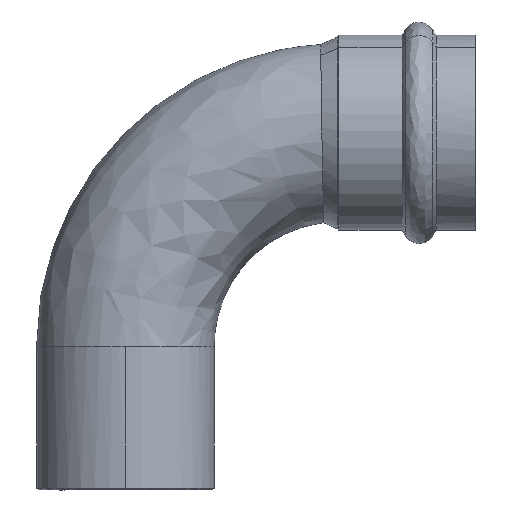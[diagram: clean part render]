
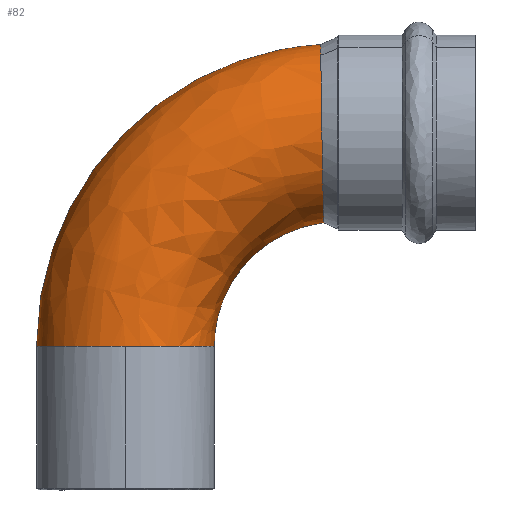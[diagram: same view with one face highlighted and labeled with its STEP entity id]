
A CAD part, front view. The second image highlights one B-rep face of the part: STEP entity #82.
In plain terms, the highlighted free-form (B-spline) face has degree [2, 2] with [7, 3] control points.
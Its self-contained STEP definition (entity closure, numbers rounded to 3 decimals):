
#82=ADVANCED_FACE('',(#166),#167,.T.);
#166=FACE_OUTER_BOUND('',#451,.T.);
#167=(B_SPLINE_SURFACE(2,2,((#453,#454,#455),(#456,#457,#458),(#459,#460,#461),(#462,#463,#464),(#465,#466,#467),(#468,#469,#470),(#471,#472,#473)),.UNSPECIFIED.,.F.,.F.,.F.)B_SPLINE_SURFACE_WITH_KNOTS((3,2,2,3),(3,3),(0.,1.047,2.094,3.142),(0.0,1.521),.UNSPECIFIED.)RATIONAL_B_SPLINE_SURFACE(((1.0,0.725,1.0),(0.866,0.627,0.866),(1.0,0.725,1.0),(0.866,0.627,0.866),(1.0,0.725,1.0),(0.866,0.627,0.866),(1.0,0.725,1.0)))BOUNDED_SURFACE()REPRESENTATION_ITEM('')GEOMETRIC_REPRESENTATION_ITEM()SURFACE());
#451=EDGE_LOOP('',(#769,#770,#771,#772,#773,#774));
#453=CARTESIAN_POINT('',(-25.375,0.001,-61.));
#454=CARTESIAN_POINT('',(-25.375,0.001,21.164));
#455=CARTESIAN_POINT('',(56.687,0.001,25.267));
#456=CARTESIAN_POINT('',(-25.375,-14.65,-61.));
#457=CARTESIAN_POINT('',(-25.375,-14.65,21.165));
#458=CARTESIAN_POINT('',(56.687,-14.65,25.268));
#459=CARTESIAN_POINT('',(-12.688,-21.975,-61.));
#460=CARTESIAN_POINT('',(-12.688,-21.975,9.096));
#461=CARTESIAN_POINT('',(57.32,-21.975,12.596));
#462=CARTESIAN_POINT('',(0.,-29.301,-61.));
#463=CARTESIAN_POINT('',(0.,-29.301,-2.974));
#464=CARTESIAN_POINT('',(57.954,-29.301,-0.076));
#465=CARTESIAN_POINT('',(12.688,-21.975,-61.));
#466=CARTESIAN_POINT('',(12.688,-21.975,-15.043));
#467=CARTESIAN_POINT('',(58.588,-21.975,-12.748));
#468=CARTESIAN_POINT('',(25.375,-14.65,-61.));
#469=CARTESIAN_POINT('',(25.375,-14.65,-27.112));
#470=CARTESIAN_POINT('',(59.221,-14.65,-25.42));
#471=CARTESIAN_POINT('',(25.375,0.001,-61.));
#472=CARTESIAN_POINT('',(25.375,0.001,-27.112));
#473=CARTESIAN_POINT('',(59.221,0.001,-25.419));
#769=ORIENTED_EDGE('',*,*,#897,.F.);
#770=ORIENTED_EDGE('',*,*,#898,.F.);
#771=ORIENTED_EDGE('',*,*,#895,.F.);
#772=ORIENTED_EDGE('',*,*,#889,.T.);
#773=ORIENTED_EDGE('',*,*,#844,.T.);
#774=ORIENTED_EDGE('',*,*,#894,.F.);
#844=EDGE_CURVE('',#940,#946,#948,.T.);
#889=EDGE_CURVE('',#1012,#940,#1013,.T.);
#894=EDGE_CURVE('',#1019,#946,#1021,.T.);
#895=EDGE_CURVE('',#1012,#1016,#1022,.T.);
#897=EDGE_CURVE('',#1024,#1019,#1025,.T.);
#898=EDGE_CURVE('',#1016,#1024,#1026,.T.);
#940=VERTEX_POINT('',#1150);
#946=VERTEX_POINT('',#1158);
#948=(B_SPLINE_CURVE(2,(#1172,#1173,#1174,#1175,#1176),.UNSPECIFIED.,.F.,.F.)B_SPLINE_CURVE_WITH_KNOTS((3,2,3),(0.,1.571,3.142),.UNSPECIFIED.)RATIONAL_B_SPLINE_CURVE((1.0,0.707,1.0,0.707,1.0))BOUNDED_CURVE()REPRESENTATION_ITEM('')GEOMETRIC_REPRESENTATION_ITEM()CURVE());
#1012=VERTEX_POINT('',#1358);
#1013=(B_SPLINE_CURVE(2,(#1360,#1361,#1362,#1363,#1364),.UNSPECIFIED.,.F.,.F.)B_SPLINE_CURVE_WITH_KNOTS((3,2,3),(0.,1.571,3.142),.UNSPECIFIED.)RATIONAL_B_SPLINE_CURVE((1.0,0.707,1.0,0.707,1.0))BOUNDED_CURVE()REPRESENTATION_ITEM('')GEOMETRIC_REPRESENTATION_ITEM()CURVE());
#1016=VERTEX_POINT('',#1384);
#1019=VERTEX_POINT('',#1432);
#1021=(B_SPLINE_CURVE(2,(#1442,#1443,#1444),.UNSPECIFIED.,.F.,.F.)B_SPLINE_CURVE_WITH_KNOTS((3,3),(0.,1.449),.UNSPECIFIED.)RATIONAL_B_SPLINE_CURVE((1.0,0.749,1.0))BOUNDED_CURVE()REPRESENTATION_ITEM('')GEOMETRIC_REPRESENTATION_ITEM()CURVE());
#1022=(B_SPLINE_CURVE(2,(#1452,#1453,#1454),.UNSPECIFIED.,.F.,.F.)B_SPLINE_CURVE_WITH_KNOTS((3,3),(0.,1.51),.UNSPECIFIED.)RATIONAL_B_SPLINE_CURVE((1.0,0.728,1.0))BOUNDED_CURVE()REPRESENTATION_ITEM('')GEOMETRIC_REPRESENTATION_ITEM()CURVE());
#1024=VERTEX_POINT('',#1462);
#1025=B_SPLINE_CURVE_WITH_KNOTS('',3,(#1463,#1464,#1465,#1466,#1467,#1468,#1469,#1470,#1471,#1472,#1473,#1474,#1475,#1476,#1477,#1478,#1479,#1480,#1481,#1482,#1483,#1484,#1485,#1486,#1487,#1488,#1489,#1490,#1491,#1492,#1493,#1494,#1495,#1496,#1497,#1498,#1499,#1500,#1501,#1502,#1503,#1504,#1505,#1506,#1507,#1508),.UNSPECIFIED.,.F.,.F.,(4,2,2,2,2,2,2,2,2,2,2,2,2,2,2,2,2,2,2,2,2,2,4),(0.0,0.062,0.125,0.156,0.188,0.25,0.281,0.313,0.375,0.406,0.438,0.5,0.531,0.563,0.625,0.656,0.688,0.75,0.781,0.813,0.875,0.938,1.0),.UNSPECIFIED.);
#1026=B_SPLINE_CURVE_WITH_KNOTS('',3,(#1509,#1510,#1511,#1512,#1513,#1514,#1515,#1516),.UNSPECIFIED.,.F.,.F.,(4,2,2,4),(0.0,0.5,0.75,1.0),.UNSPECIFIED.);
#1150=CARTESIAN_POINT('',(0.,-25.375,-61.));
#1158=CARTESIAN_POINT('',(25.375,0.,-61.));
#1172=CARTESIAN_POINT('',(-25.375,0.,-61.));
#1173=CARTESIAN_POINT('',(-25.375,-25.375,-61.));
#1174=CARTESIAN_POINT('',(0.,-25.375,-61.));
#1175=CARTESIAN_POINT('',(25.375,-25.375,-61.));
#1176=CARTESIAN_POINT('',(25.375,0.,-61.));
#1358=CARTESIAN_POINT('',(-25.375,0.,-61.));
#1360=CARTESIAN_POINT('',(-25.375,0.,-61.));
#1361=CARTESIAN_POINT('',(-25.375,-25.375,-61.));
#1362=CARTESIAN_POINT('',(0.,-25.375,-61.));
#1363=CARTESIAN_POINT('',(25.375,-25.375,-61.));
#1364=CARTESIAN_POINT('',(25.375,0.,-61.));
#1384=CARTESIAN_POINT('',(55.79,0.,25.218));
#1432=CARTESIAN_POINT('',(56.689,0.,-25.637));
#1442=CARTESIAN_POINT('',(56.689,0.,-25.637));
#1443=CARTESIAN_POINT('',(25.375,0.,-29.454));
#1444=CARTESIAN_POINT('',(25.375,0.,-61.));
#1452=CARTESIAN_POINT('',(-25.375,0.,-61.));
#1453=CARTESIAN_POINT('',(-25.375,0.,20.313));
#1454=CARTESIAN_POINT('',(55.79,0.,25.218));
#1462=CARTESIAN_POINT('',(55.824,-12.098,22.145));
#1463=CARTESIAN_POINT('',(55.824,-12.098,22.145));
#1464=CARTESIAN_POINT('',(55.832,-13.339,21.47));
#1465=CARTESIAN_POINT('',(55.841,-14.507,20.703));
#1466=CARTESIAN_POINT('',(55.861,-16.699,18.992));
#1467=CARTESIAN_POINT('',(55.872,-17.724,18.047));
#1468=CARTESIAN_POINT('',(55.891,-19.151,16.493));
#1469=CARTESIAN_POINT('',(55.898,-19.608,15.952));
#1470=CARTESIAN_POINT('',(55.912,-20.468,14.845));
#1471=CARTESIAN_POINT('',(55.919,-20.872,14.276));
#1472=CARTESIAN_POINT('',(55.942,-22.013,12.525));
#1473=CARTESIAN_POINT('',(55.958,-22.677,11.298));
#1474=CARTESIAN_POINT('',(55.985,-23.522,9.366));
#1475=CARTESIAN_POINT('',(55.994,-23.779,8.706));
#1476=CARTESIAN_POINT('',(56.013,-24.233,7.378));
#1477=CARTESIAN_POINT('',(56.022,-24.431,6.709));
#1478=CARTESIAN_POINT('',(56.052,-24.943,4.682));
#1479=CARTESIAN_POINT('',(56.073,-25.172,3.306));
#1480=CARTESIAN_POINT('',(56.106,-25.346,1.207));
#1481=CARTESIAN_POINT('',(56.118,-25.375,0.499));
#1482=CARTESIAN_POINT('',(56.141,-25.375,-0.905));
#1483=CARTESIAN_POINT('',(56.152,-25.346,-1.603));
#1484=CARTESIAN_POINT('',(56.188,-25.173,-3.687));
#1485=CARTESIAN_POINT('',(56.213,-24.945,-5.062));
#1486=CARTESIAN_POINT('',(56.251,-24.431,-7.103));
#1487=CARTESIAN_POINT('',(56.264,-24.229,-7.782));
#1488=CARTESIAN_POINT('',(56.289,-23.774,-9.112));
#1489=CARTESIAN_POINT('',(56.302,-23.52,-9.763));
#1490=CARTESIAN_POINT('',(56.341,-22.682,-11.68));
#1491=CARTESIAN_POINT('',(56.367,-22.022,-12.907));
#1492=CARTESIAN_POINT('',(56.406,-20.876,-14.669));
#1493=CARTESIAN_POINT('',(56.419,-20.466,-15.246));
#1494=CARTESIAN_POINT('',(56.445,-19.604,-16.358));
#1495=CARTESIAN_POINT('',(56.457,-19.153,-16.893));
#1496=CARTESIAN_POINT('',(56.494,-17.739,-18.436));
#1497=CARTESIAN_POINT('',(56.518,-16.717,-19.382));
#1498=CARTESIAN_POINT('',(56.551,-15.063,-20.677));
#1499=CARTESIAN_POINT('',(56.562,-14.489,-21.09));
#1500=CARTESIAN_POINT('',(56.582,-13.312,-21.863));
#1501=CARTESIAN_POINT('',(56.592,-12.711,-22.223));
#1502=CARTESIAN_POINT('',(56.619,-10.872,-23.224));
#1503=CARTESIAN_POINT('',(56.635,-9.598,-23.787));
#1504=CARTESIAN_POINT('',(56.661,-6.953,-24.702));
#1505=CARTESIAN_POINT('',(56.672,-5.575,-25.054));
#1506=CARTESIAN_POINT('',(56.685,-2.811,-25.519));
#1507=CARTESIAN_POINT('',(56.689,-1.413,-25.637));
#1508=CARTESIAN_POINT('',(56.689,0.,-25.637));
#1509=CARTESIAN_POINT('',(55.79,0.,25.218));
#1510=CARTESIAN_POINT('',(55.79,-2.119,25.218));
#1511=CARTESIAN_POINT('',(55.793,-4.191,24.956));
#1512=CARTESIAN_POINT('',(55.801,-7.231,24.187));
#1513=CARTESIAN_POINT('',(55.805,-8.236,23.866));
#1514=CARTESIAN_POINT('',(55.814,-10.208,23.096));
#1515=CARTESIAN_POINT('',(55.819,-11.167,22.65));
#1516=CARTESIAN_POINT('',(55.824,-12.098,22.145));
